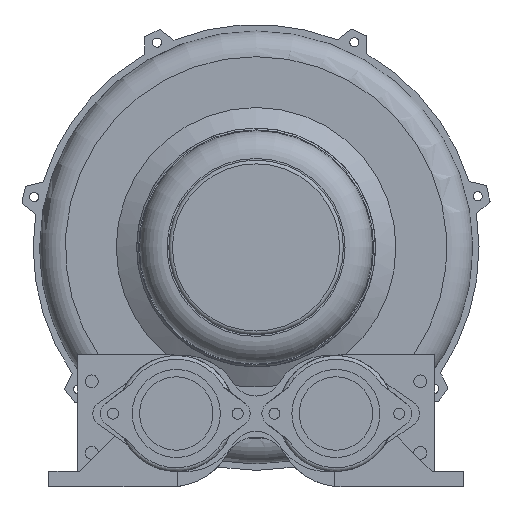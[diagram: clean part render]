
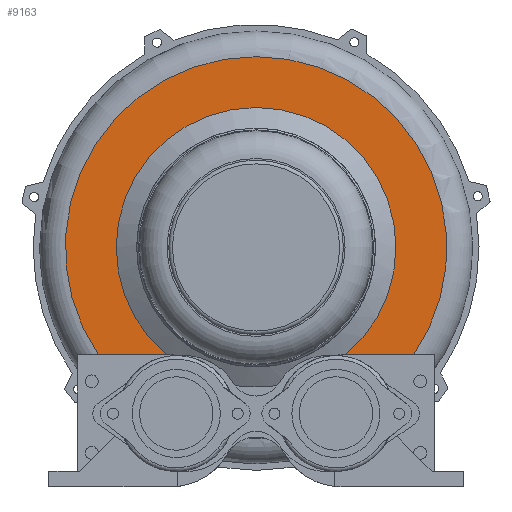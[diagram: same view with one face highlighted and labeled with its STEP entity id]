
A CAD part, front view. The second image highlights one B-rep face of the part: STEP entity #9163.
In plain terms, the highlighted planar face has unit normal (0, -1, 0).
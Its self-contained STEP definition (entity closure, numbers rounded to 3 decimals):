
#492=LINE('',#13902,#1230);
#496=LINE('',#13915,#1234);
#1230=VECTOR('',#11004,1000.);
#1234=VECTOR('',#11010,1000.);
#2234=ORIENTED_EDGE('',*,*,#4902,.F.);
#2235=ORIENTED_EDGE('',*,*,#4954,.F.);
#2236=ORIENTED_EDGE('',*,*,#4907,.F.);
#2237=ORIENTED_EDGE('',*,*,#4955,.T.);
#4902=EDGE_CURVE('',#6295,#6296,#492,.T.);
#4907=EDGE_CURVE('',#6299,#6300,#496,.T.);
#4954=EDGE_CURVE('',#6300,#6295,#7212,.T.);
#4955=EDGE_CURVE('',#6299,#6296,#7213,.T.);
#6295=VERTEX_POINT('',#13903);
#6296=VERTEX_POINT('',#13904);
#6299=VERTEX_POINT('',#13916);
#6300=VERTEX_POINT('',#13917);
#7212=CIRCLE('',#9788,76.241);
#7213=CIRCLE('',#9789,103.97);
#7723=EDGE_LOOP('',(#2234,#2235,#2236,#2237));
#8301=FACE_BOUND('',#7723,.T.);
#8829=PLANE('',#9787);
#9163=ADVANCED_FACE('',(#8301),#8829,.F.);
#9787=AXIS2_PLACEMENT_3D('',#14027,#11113,#11114);
#9788=AXIS2_PLACEMENT_3D('',#14028,#11115,#11116);
#9789=AXIS2_PLACEMENT_3D('',#14029,#11117,#11118);
#11004=DIRECTION('',(-1.,0.,0.));
#11010=DIRECTION('',(-1.,0.,0.));
#11113=DIRECTION('',(0.,1.,0.));
#11114=DIRECTION('',(0.,0.,-1.));
#11115=DIRECTION('',(0.,-1.,0.));
#11116=DIRECTION('',(0.,0.,1.));
#11117=DIRECTION('',(0.,-1.,0.));
#11118=DIRECTION('',(0.,0.,1.));
#13902=CARTESIAN_POINT('',(-46.915,-61.998,-58.544));
#13903=CARTESIAN_POINT('',(-48.84,-61.998,-58.544));
#13904=CARTESIAN_POINT('',(-85.921,-61.998,-58.544));
#13915=CARTESIAN_POINT('',(97.5,-61.998,-58.544));
#13916=CARTESIAN_POINT('',(85.921,-61.998,-58.544));
#13917=CARTESIAN_POINT('',(48.84,-61.998,-58.544));
#14027=CARTESIAN_POINT('',(0.,-61.998,76.241));
#14028=CARTESIAN_POINT('',(0.,-61.998,0.));
#14029=CARTESIAN_POINT('',(0.,-61.998,0.));
